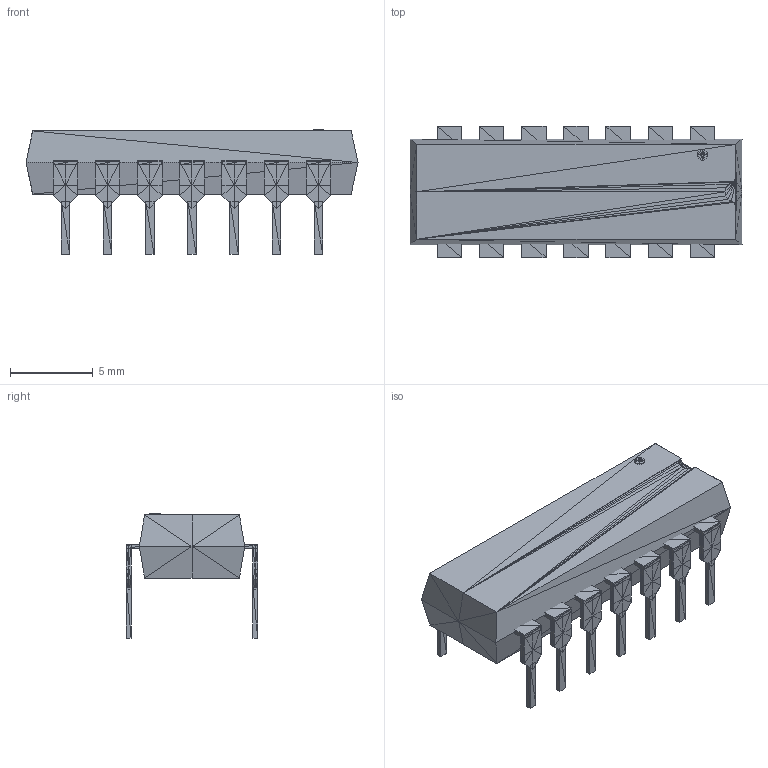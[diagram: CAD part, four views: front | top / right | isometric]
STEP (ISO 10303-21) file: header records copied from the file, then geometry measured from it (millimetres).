
FILE_DESCRIPTION(('HOOPS Exchange Step'),'2;1');
FILE_NAME('***.stp');
FILE_SCHEMA( ('AP242_MANAGED_MODEL_BASED_3D_ENGINEERING_MIM_LF {1 0 10303 442 1 1 4 }') );
Length unit declared in the file: inch
Products named in the file (17): DIP-14_2; DIP-14_3; DIP-14_4; DIP-14_5; DIP-14_6; DIP-14_7; DIP-14_8; DIP-14_9; DIP-14_10; DIP-14_11; DIP-14_12; DIP-14_13; DIP-14_14; DIP-14_15; DIP-14_16; DIP-14_17; DIP-14
Assembly tree (16 placements, depth 2):
  DIP-14
    DIP-14_2
    DIP-14_3
    DIP-14_4
    DIP-14_5
    DIP-14_6
    DIP-14_7
    DIP-14_8
    DIP-14_9
    DIP-14_10
    DIP-14_11
    DIP-14_12
    DIP-14_13
    DIP-14_14
    DIP-14_15
    DIP-14_16
    DIP-14_17
Bounding box: 20 x 7.91 x 7.49 mm (x, y, z)
Volume: 467 mm3; surface area: 700.7 mm2
Topology: 31 solids, 44 shells, 1148 faces, 1722 edges, 662 vertices
Faces by surface type: plane 1148
Entity records: 23339 total; most frequent: DIRECTION 4086, CARTESIAN_POINT 3566, ORIENTED_EDGE 3444, VECTOR 1722, LINE 1722, EDGE_CURVE 1722, AXIS2_PLACEMENT_3D 1182, PLANE 1148
